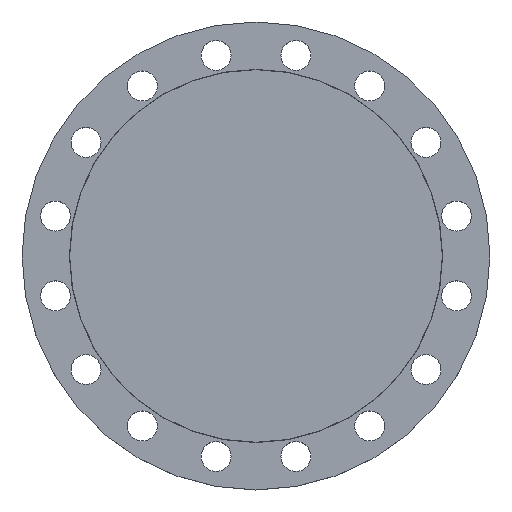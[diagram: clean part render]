
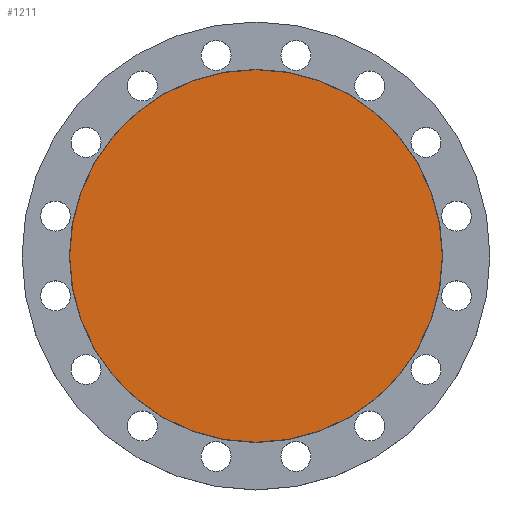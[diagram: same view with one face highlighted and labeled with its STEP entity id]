
A CAD part, top view. The second image highlights one B-rep face of the part: STEP entity #1211.
In plain terms, the highlighted planar face has unit normal (0, 0, 1).
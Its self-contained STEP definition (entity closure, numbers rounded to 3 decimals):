
#61 = CIRCLE ( 'NONE', #237, 205. ) ;
#136 = AXIS2_PLACEMENT_3D ( 'NONE', #1373, #1371, #1370 ) ;
#160 = CARTESIAN_POINT ( 'NONE',  ( -205., 0., 0. ) ) ;
#200 = DIRECTION ( 'NONE',  ( -1., 0., 0. ) ) ;
#201 = DIRECTION ( 'NONE',  ( 0., 0., -1. ) ) ;
#203 = CARTESIAN_POINT ( 'NONE',  ( 0., 0., 0. ) ) ;
#237 = AXIS2_PLACEMENT_3D ( 'NONE', #203, #201, #200 ) ;
#255 = EDGE_CURVE ( 'NONE', #291, #909, #61, .T. ) ;
#291 = VERTEX_POINT ( 'NONE', #160 ) ;
#683 = AXIS2_PLACEMENT_3D ( 'NONE', #850, #847, #843 ) ;
#771 = EDGE_CURVE ( 'NONE', #909, #291, #826, .T. ) ;
#826 = CIRCLE ( 'NONE', #136, 205. ) ;
#843 = DIRECTION ( 'NONE',  ( 1., 0., 0. ) ) ;
#847 = DIRECTION ( 'NONE',  ( 0., 0., 1. ) ) ;
#850 = CARTESIAN_POINT ( 'NONE',  ( 0., 0., 0. ) ) ;
#853 = PLANE ( 'NONE',  #683 ) ;
#854 = FACE_OUTER_BOUND ( 'NONE', #862, .T. ) ;
#862 = EDGE_LOOP ( 'NONE', ( #1430, #1436 ) ) ;
#909 = VERTEX_POINT ( 'NONE', #1258 ) ;
#1211 = ADVANCED_FACE ( 'NONE', ( #854 ), #853, .T. ) ;
#1258 = CARTESIAN_POINT ( 'NONE',  ( 205., 0., 0. ) ) ;
#1370 = DIRECTION ( 'NONE',  ( -1., 0., 0. ) ) ;
#1371 = DIRECTION ( 'NONE',  ( 0., 0., -1. ) ) ;
#1373 = CARTESIAN_POINT ( 'NONE',  ( 0., 0., 0. ) ) ;
#1430 = ORIENTED_EDGE ( 'NONE', *, *, #255, .F. ) ;
#1436 = ORIENTED_EDGE ( 'NONE', *, *, #771, .F. ) ;
